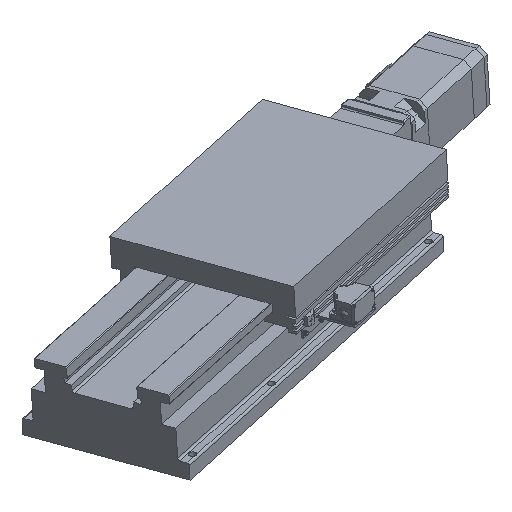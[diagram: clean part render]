
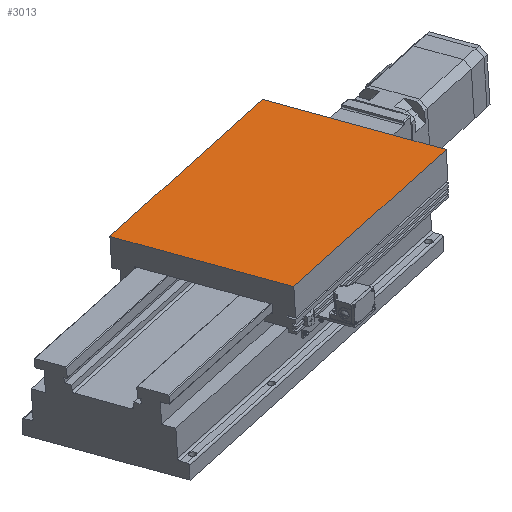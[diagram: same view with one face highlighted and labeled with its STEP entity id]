
A CAD part, isometric view. The second image highlights one B-rep face of the part: STEP entity #3013.
In plain terms, the highlighted planar face has unit normal (0.013, 0.084, 0.996).
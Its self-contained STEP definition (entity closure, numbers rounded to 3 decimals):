
#255=CARTESIAN_POINT('',(434.713,441.112,619.286));
#256=VERTEX_POINT('',#255);
#263=CARTESIAN_POINT('',(540.058,15.32,653.977));
#264=VERTEX_POINT('',#263);
#265=CARTESIAN_POINT('',(540.058,15.32,653.977));
#266=DIRECTION('',(-0.239,0.968,-0.079));
#267=VECTOR('',#266,440.);
#268=LINE('',#265,#267);
#269=EDGE_CURVE('',#264,#256,#268,.T.);
#2779=CARTESIAN_POINT('',(-42.44,-127.201,673.548));
#2780=VERTEX_POINT('',#2779);
#2787=CARTESIAN_POINT('',(-147.785,298.591,638.856));
#2788=VERTEX_POINT('',#2787);
#2789=CARTESIAN_POINT('',(-147.785,298.591,638.856));
#2790=DIRECTION('',(0.239,-0.968,0.079));
#2791=VECTOR('',#2790,440.);
#2792=LINE('',#2789,#2791);
#2793=EDGE_CURVE('',#2788,#2780,#2792,.T.);
#2992=CARTESIAN_POINT('',(-47.229,-107.847,671.971));
#2993=DIRECTION('',(0.013,0.084,0.996));
#2994=DIRECTION('',(0.971,0.238,-0.033));
#2995=AXIS2_PLACEMENT_3D('',#2992,#2993,#2994);
#2996=PLANE('',#2995);
#2997=ORIENTED_EDGE('',*,*,#269,.T.);
#2998=CARTESIAN_POINT('',(-147.785,298.591,638.856));
#2999=DIRECTION('',(0.971,0.238,-0.033));
#3000=VECTOR('',#2999,600.0);
#3001=LINE('',#2998,#3000);
#3002=EDGE_CURVE('',#2788,#256,#3001,.T.);
#3003=ORIENTED_EDGE('',*,*,#3002,.F.);
#3004=ORIENTED_EDGE('',*,*,#2793,.T.);
#3005=CARTESIAN_POINT('',(-42.44,-127.201,673.548));
#3006=DIRECTION('',(0.971,0.238,-0.033));
#3007=VECTOR('',#3006,600.0);
#3008=LINE('',#3005,#3007);
#3009=EDGE_CURVE('',#2780,#264,#3008,.T.);
#3010=ORIENTED_EDGE('',*,*,#3009,.T.);
#3011=EDGE_LOOP('',(#2997,#3003,#3004,#3010));
#3012=FACE_OUTER_BOUND('',#3011,.T.);
#3013=ADVANCED_FACE('',(#3012),#2996,.T.);
